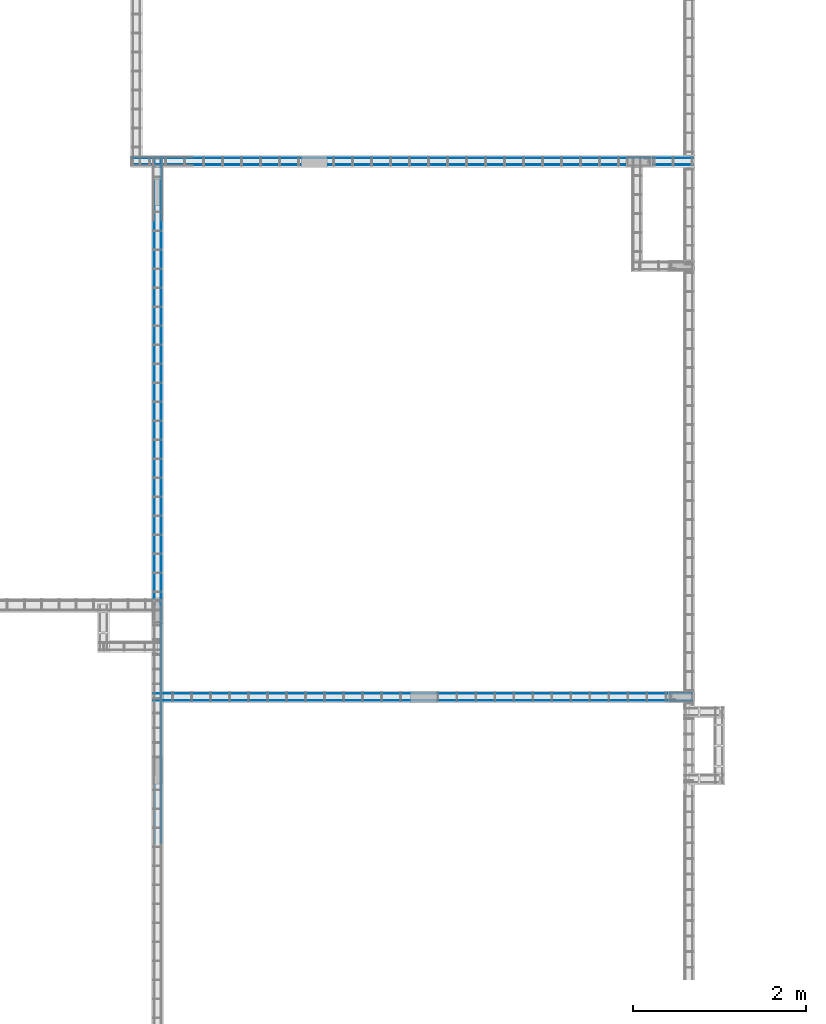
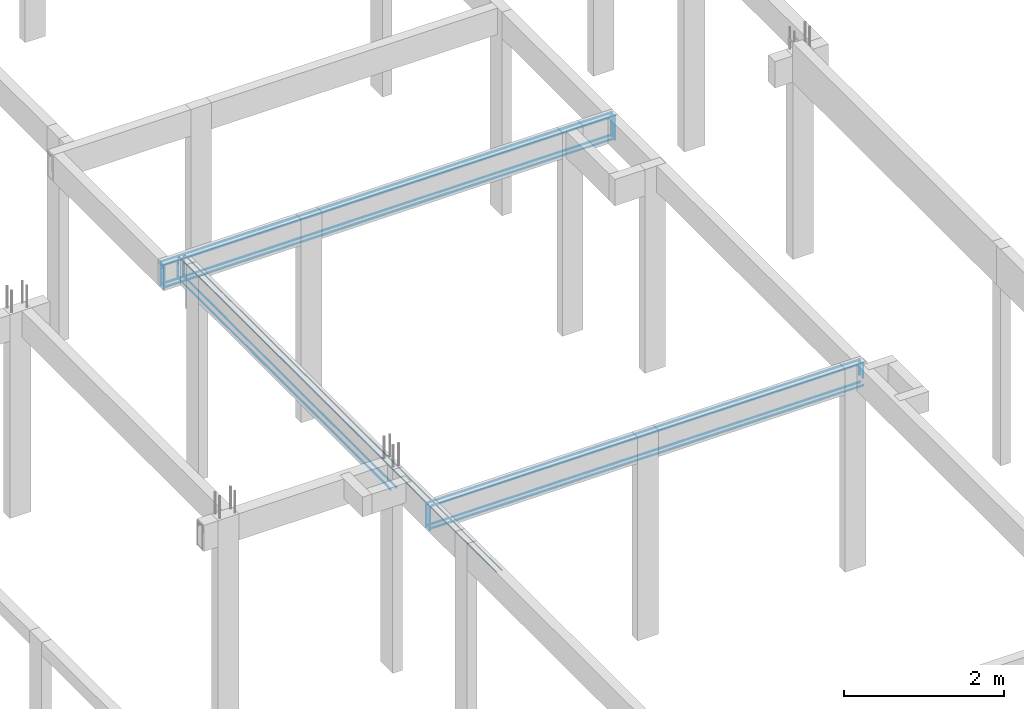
# One storey, part 69 of 236: 12 reinforcing bars.
"""IFC4 building model written with IfcOpenShell, lengths in centimetres."""

from ifc_helpers import new_model, entity, si_unit, derived_unit, frame, origin_with_axes, place, context, project, spatial, element, save


model = new_model("IFC4")

# Units and contexts
model_context = context("Model", 3, precision=1e-05, world=origin_with_axes(), identifier="Body")
ifc_project = project(units=[si_unit("LENGTHUNIT", "METRE", prefix="CENTI"), si_unit("VOLUMEUNIT", "CUBIC_METRE"), si_unit("AREAUNIT", "SQUARE_METRE"), si_unit("POWERUNIT", "WATT"), si_unit("LUMINOUSFLUXUNIT", "LUMEN"), si_unit("ELECTRICCURRENTUNIT", "AMPERE"), si_unit("PRESSUREUNIT", "PASCAL", prefix="KILO"), si_unit("MASSUNIT", "GRAM", prefix="KILO"), si_unit("PLANEANGLEUNIT", "RADIAN"), derived_unit("VOLUMETRICFLOWRATEUNIT", [(si_unit("LENGTHUNIT", "METRE"), 3), (si_unit("TIMEUNIT", "SECOND"), -1)])], contexts=[model_context])

# Site, building, storey
site_placement = place(None, frame((-4000.0, 0.0, 0.0), z_axis=(0.0, 0.0, 1.0), x_axis=(1.0, 0.0, 0.0)))
site = spatial("IfcSite", under=ifc_project, at=site_placement, Name="PADRÃO")
building_placement = place(site_placement, frame((0.0, 0.0, -14.0)))
building = spatial("IfcBuilding", under=site, at=building_placement, Name="CRECHE PRÉ-ESCOLA TIPO 2")
placement_1 = place(building_placement, origin_with_axes())
placement_2 = place(placement_1, frame((0.0, 0.0, 30.0), z_axis=(0.0, 0.0, 1.0), x_axis=(1.0, 0.0, 0.0)))
storey_placement = place(placement_2, frame((0.0, 0.0, 310.0), z_axis=(0.0, 0.0, 1.0), x_axis=(1.0, 0.0, 0.0)))
storey = spatial("IfcBuildingStorey", under=building, at=storey_placement, Name="TERREO", CompositionType="ELEMENT", Elevation=326.0)

# Reinforcing bars
for number, where, z_axis, x_axis, name in (
    (1, (798.955, 3193.39, -14.8022873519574), (0.0, 0.0, 1.0), (1.0, 0.0, 0.0), "V216 - Longitudinal inferior"),
    (2, (798.955, 3201.59, -14.8022873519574), (0.0, 0.0, 1.0), (1.0, 0.0, 0.0), "V216 - Longitudinal inferior"),
):
    element("IfcReinforcingBar", number, at=place(storey_placement, frame(where, z_axis=z_axis, x_axis=x_axis)), inside=storey, Name=name, BarLength=0.0, CrossSectionArea=5.0265482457e-05, NominalDiameter=0.8, PredefinedType="MAIN", context=model_context, shape_type="AdvancedSweptSolid", body=[
        entity("IfcSweptDiskSolid", entity("IfcCompositeCurve", [entity("IfcCompositeCurveSegment", "CONTINUOUS", True, entity("IfcPolyline", [entity("IfcCartesianPoint", [-324.365, 0.0, 0.0]), entity("IfcCartesianPoint", [-324.365, 0.0, -22.2977126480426])])), entity("IfcCompositeCurveSegment", "CONTINUOUS", True, entity("IfcPolyline", [entity("IfcCartesianPoint", [-324.365, 0.0, -22.2977126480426]), entity("IfcCartesianPoint", [324.365, 0.0, -22.2977126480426])])), entity("IfcCompositeCurveSegment", "CONTINUOUS", True, entity("IfcPolyline", [entity("IfcCartesianPoint", [324.365, 0.0, -22.2977126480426]), entity("IfcCartesianPoint", [324.365, 0.0, 0.0])]))], False), 0.4),
    ])
for number, where, z_axis, x_axis, name in (
    (3, (798.955, 3193.49, -2.49531217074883), (0.0, 0.0, 1.0), (1.0, 0.0, 0.0), "V216 - Longitudinal superior"),
    (4, (798.955, 3201.49, -2.49531217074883), (0.0, 0.0, 1.0), (1.0, 0.0, 0.0), "V216 - Longitudinal superior"),
):
    element("IfcReinforcingBar", number, at=place(storey_placement, frame(where, z_axis=z_axis, x_axis=x_axis)), inside=storey, Name=name, BarLength=0.0, CrossSectionArea=7.853981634e-05, NominalDiameter=1.0, PredefinedType="MAIN", context=model_context, shape_type="AdvancedSweptSolid", body=[
        entity("IfcSweptDiskSolid", entity("IfcCompositeCurve", [entity("IfcCompositeCurveSegment", "CONTINUOUS", True, entity("IfcPolyline", [entity("IfcCartesianPoint", [-324.265, 0.0, -36.5046878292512]), entity("IfcCartesianPoint", [-324.265, 0.0, -0.504687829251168])])), entity("IfcCompositeCurveSegment", "CONTINUOUS", True, entity("IfcPolyline", [entity("IfcCartesianPoint", [-324.265, 0.0, -0.504687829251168]), entity("IfcCartesianPoint", [324.265, 0.0, -0.504687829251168])])), entity("IfcCompositeCurveSegment", "CONTINUOUS", True, entity("IfcPolyline", [entity("IfcCartesianPoint", [324.265, 0.0, -0.504687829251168]), entity("IfcCartesianPoint", [324.265, 0.0, -36.5046878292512])]))], False), 0.5),
    ])
for number, where, z_axis, x_axis, name in (
    (5, (810.705, 2573.4, -36.7), (0.0, 0.0, 1.0), (1.0, 0.0, 0.0), "V226 - Longitudinal inferior"),
    (6, (810.705, 2581.6, -36.7), (0.0, 0.0, 1.0), (1.0, 0.0, 0.0), "V226 - Longitudinal inferior"),
):
    element("IfcReinforcingBar", number, at=place(storey_placement, frame(where, z_axis=z_axis, x_axis=x_axis)), inside=storey, Name=name, BarLength=0.0, CrossSectionArea=5.0265482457e-05, NominalDiameter=0.8, PredefinedType="MAIN", context=model_context, shape_type="AdvancedSweptSolid", body=[
        entity("IfcSweptDiskSolid", entity("IfcCompositeCurve", [entity("IfcCompositeCurveSegment", "CONTINUOUS", True, entity("IfcPolyline", [entity("IfcCartesianPoint", [-312.015, 0.0, -0.4]), entity("IfcCartesianPoint", [312.015, 0.0, -0.4])]))], False), 0.4),
    ])
for number, where, z_axis, x_axis, name in (
    (7, (810.705, 2581.6, -2.49624973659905), (0.0, 0.0, 1.0), (1.0, 0.0, 0.0), "V226 - Longitudinal superior"),
    (8, (810.705, 2573.4, -2.49624973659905), (0.0, 0.0, 1.0), (1.0, 0.0, 0.0), "V226 - Longitudinal superior"),
):
    element("IfcReinforcingBar", number, at=place(storey_placement, frame(where, z_axis=z_axis, x_axis=x_axis)), inside=storey, Name=name, BarLength=0.0, CrossSectionArea=5.0265482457e-05, NominalDiameter=0.8, PredefinedType="MAIN", context=model_context, shape_type="AdvancedSweptSolid", body=[
        entity("IfcSweptDiskSolid", entity("IfcCompositeCurve", [entity("IfcCompositeCurveSegment", "CONTINUOUS", True, entity("IfcPolyline", [entity("IfcCartesianPoint", [-311.615, 0.0, -36.4037502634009]), entity("IfcCartesianPoint", [-311.615, 0.0, -0.403750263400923])])), entity("IfcCompositeCurveSegment", "CONTINUOUS", True, entity("IfcPolyline", [entity("IfcCartesianPoint", [-311.615, 0.0, -0.403750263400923]), entity("IfcCartesianPoint", [311.615, 0.0, -0.403750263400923])])), entity("IfcCompositeCurveSegment", "CONTINUOUS", True, entity("IfcPolyline", [entity("IfcCartesianPoint", [311.615, 0.0, -0.403750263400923]), entity("IfcCartesianPoint", [311.615, 0.0, -22.7014629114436])]))], False), 0.4),
    ])
for number, where, z_axis, x_axis, name in (
    (9, (507.79, 2937.2518751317, -14.8022873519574), (0.0, 0.0, 1.0), (1.0, 0.0, 0.0), "V270 - Longitudinal inferior"),
    (10, (499.59, 2937.2518751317, -14.8022873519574), (0.0, 0.0, 1.0), (1.0, 0.0, 0.0), "V270 - Longitudinal inferior"),
):
    element("IfcReinforcingBar", number, at=place(storey_placement, frame(where, z_axis=z_axis, x_axis=x_axis)), inside=storey, Name=name, BarLength=0.0, CrossSectionArea=5.0265482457e-05, NominalDiameter=0.8, PredefinedType="MAIN", context=model_context, shape_type="AdvancedSweptSolid", body=[
        entity("IfcSweptDiskSolid", entity("IfcCompositeCurve", [entity("IfcCompositeCurveSegment", "CONTINUOUS", True, entity("IfcPolyline", [entity("IfcCartesianPoint", [0.0, -265.2418751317, -22.2977126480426]), entity("IfcCartesianPoint", [0.0, 264.838124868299, -22.2977126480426])])), entity("IfcCompositeCurveSegment", "CONTINUOUS", True, entity("IfcPolyline", [entity("IfcCartesianPoint", [0.0, 264.838124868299, -22.2977126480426]), entity("IfcCartesianPoint", [0.0, 264.838124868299, 0.0])]))], False), 0.4),
    ])
for number, where, z_axis, x_axis, name in (
    (11, (499.69, 2805.49734391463, -2.49531217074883), (0.0, 0.0, 1.0), (1.0, 0.0, 0.0), "V270 - Longitudinal superior"),
    (12, (507.69, 2805.49734391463, -2.49531217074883), (0.0, 0.0, 1.0), (1.0, 0.0, 0.0), "V270 - Longitudinal superior"),
):
    element("IfcReinforcingBar", number, at=place(storey_placement, frame(where, z_axis=z_axis, x_axis=x_axis)), inside=storey, Name=name, BarLength=0.0, CrossSectionArea=7.853981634e-05, NominalDiameter=1.0, PredefinedType="MAIN", context=model_context, shape_type="AdvancedSweptSolid", body=[
        entity("IfcSweptDiskSolid", entity("IfcCompositeCurve", [entity("IfcCompositeCurveSegment", "CONTINUOUS", True, entity("IfcPolyline", [entity("IfcCartesianPoint", [0.0, -396.997343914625, -0.504687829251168]), entity("IfcCartesianPoint", [0.0, 396.492656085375, -0.504687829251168])])), entity("IfcCompositeCurveSegment", "CONTINUOUS", True, entity("IfcPolyline", [entity("IfcCartesianPoint", [0.0, 396.492656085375, -0.504687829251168]), entity("IfcCartesianPoint", [0.0, 396.492656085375, -36.5046878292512])]))], False), 0.5),
    ])

save(model, "model.ifc")
